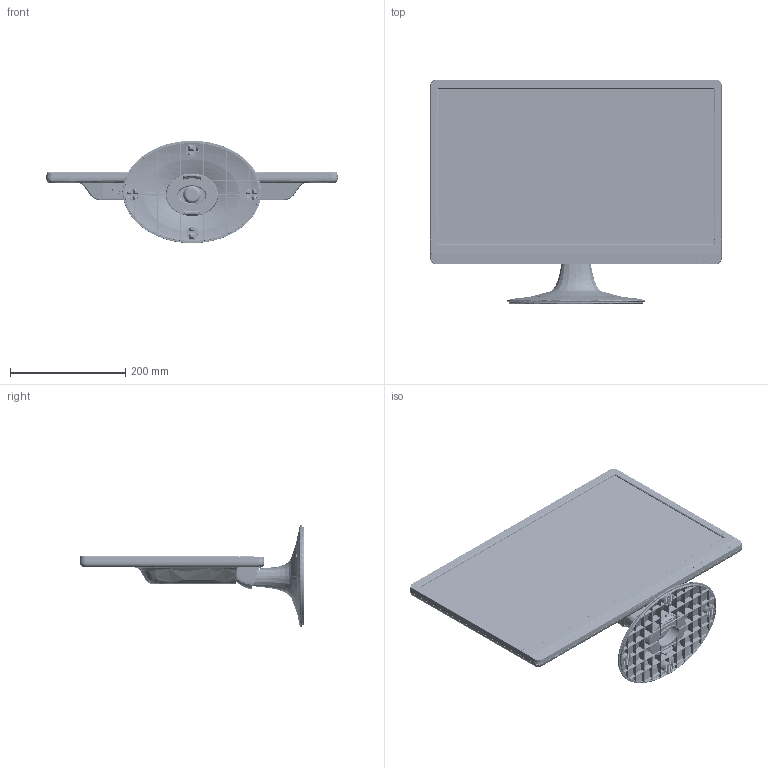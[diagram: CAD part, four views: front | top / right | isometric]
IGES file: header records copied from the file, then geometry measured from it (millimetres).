
Start section: SolidWorks IGES file using analytic representation for surfaces
Global section: file name: C:\Richard Folder\1195 Building\1195 Rich Directory\Cindy - 3D Drawings\ECO-1007193 - 997-6501  -6404-00 - PLL2210MW\997-6501 -6404-00 - PLL2201MW\STP\Final\997-6501-00.IGS; native system: SolidWorks 2015; preprocessor: SolidWorks 2015; author: RDavenport; date: 151221.074946; units: millimetre
Bounding box: 506.59 x 390.02 x 178 mm (x, y, z)
Surface area: 1838006.7 mm2 (no closed solid volume)
Topology: 0 solids, 0 shells, 11870 faces, 108044 edges, 107924 vertices
Faces by surface type: bspline 9188, revolution 2682
